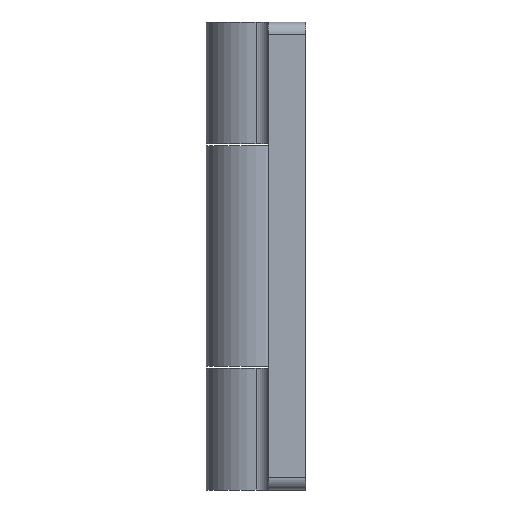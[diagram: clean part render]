
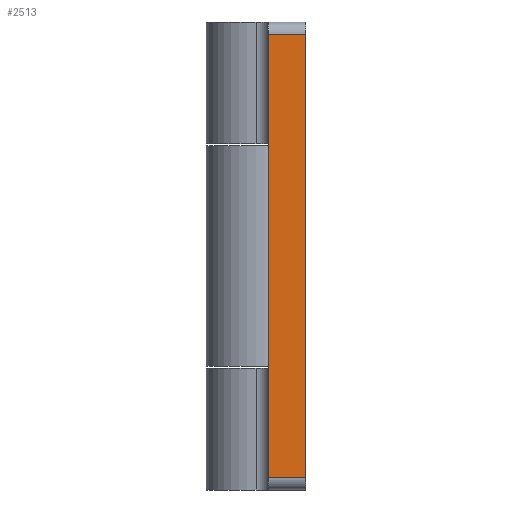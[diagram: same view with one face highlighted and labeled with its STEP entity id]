
A CAD part, left-side view. The second image highlights one B-rep face of the part: STEP entity #2513.
In plain terms, the highlighted planar face has unit normal (-1, 0, 0).
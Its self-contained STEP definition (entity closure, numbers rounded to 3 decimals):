
#263=FACE_OUTER_BOUND('',#3140,.T.);
#690=PLANE('',#8224);
#1282=LINE('',#10591,#1930);
#1297=LINE('',#10655,#1945);
#1304=LINE('',#10675,#1952);
#1305=LINE('',#10676,#1953);
#1930=VECTOR('',#8761,1.);
#1945=VECTOR('',#8814,1.);
#1952=VECTOR('',#8829,1.);
#1953=VECTOR('',#8830,1.);
#2513=ADVANCED_FACE('',(#263),#690,.F.);
#3140=EDGE_LOOP('',(#3799,#3800,#3801,#3802));
#3799=ORIENTED_EDGE('',*,*,#6921,.T.);
#3800=ORIENTED_EDGE('',*,*,#6964,.T.);
#3801=ORIENTED_EDGE('',*,*,#6954,.F.);
#3802=ORIENTED_EDGE('',*,*,#6965,.T.);
#6135=VERTEX_POINT('',#10590);
#6136=VERTEX_POINT('',#10592);
#6166=VERTEX_POINT('',#10656);
#6167=VERTEX_POINT('',#10657);
#6921=EDGE_CURVE('',#6136,#6135,#1282,.T.);
#6954=EDGE_CURVE('',#6166,#6167,#1297,.T.);
#6964=EDGE_CURVE('',#6135,#6167,#1304,.T.);
#6965=EDGE_CURVE('',#6166,#6136,#1305,.T.);
#8224=AXIS2_PLACEMENT_3D('',#10677,#8831,#8832);
#8761=DIRECTION('',(0.,0.,1.));
#8814=DIRECTION('',(0.,0.,1.));
#8829=DIRECTION('',(0.,1.,0.));
#8830=DIRECTION('',(0.,-1.,0.));
#8831=DIRECTION('',(1.,0.,0.));
#8832=DIRECTION('',(0.,0.,-1.));
#10590=CARTESIAN_POINT('',(-37.5,0.,35.5));
#10591=CARTESIAN_POINT('',(-37.5,0.,0.));
#10592=CARTESIAN_POINT('',(-37.5,0.,-35.5));
#10655=CARTESIAN_POINT('',(-37.5,6.,0.));
#10656=CARTESIAN_POINT('',(-37.5,6.,-35.5));
#10657=CARTESIAN_POINT('',(-37.5,6.,35.5));
#10675=CARTESIAN_POINT('',(-37.5,0.,35.5));
#10676=CARTESIAN_POINT('',(-37.5,0.,-35.5));
#10677=CARTESIAN_POINT('',(-37.5,0.,0.));
